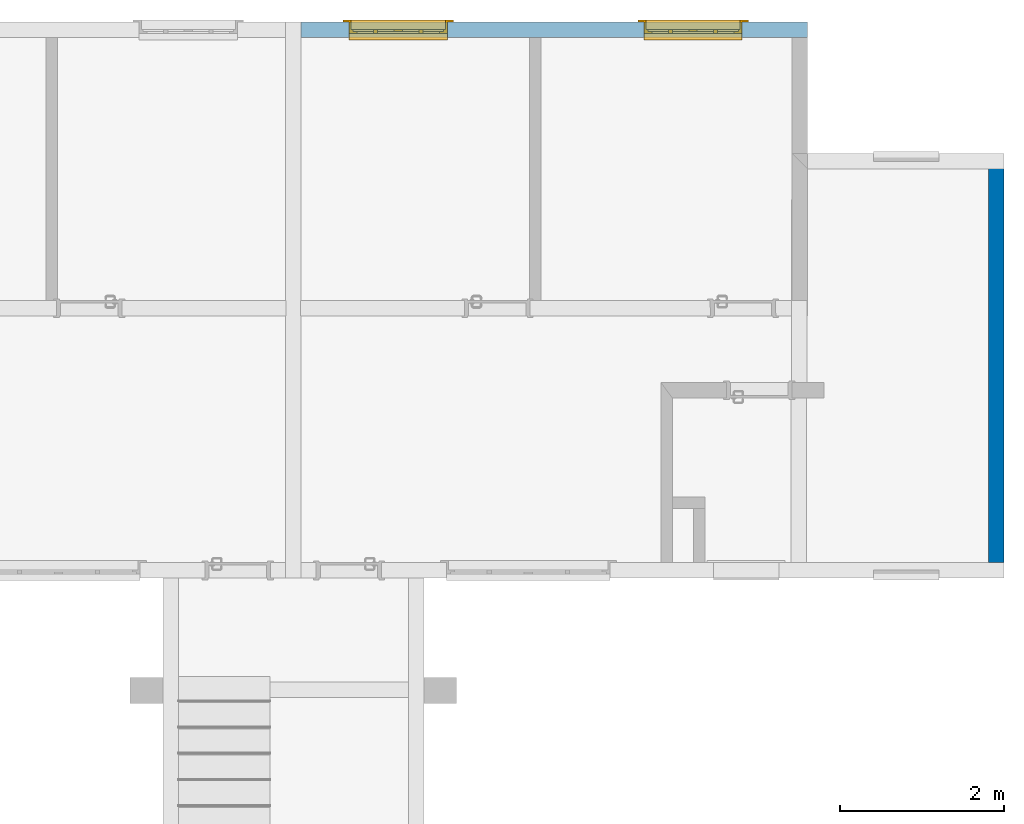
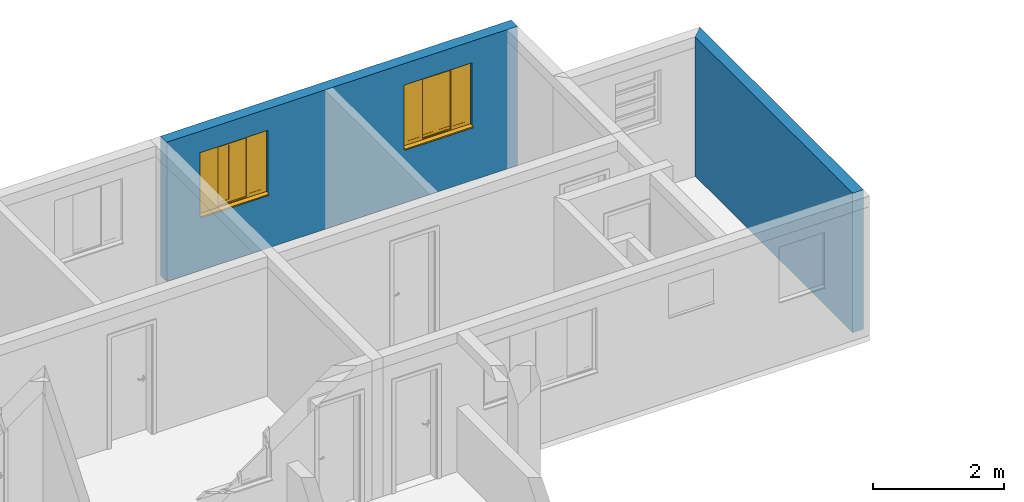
# One storey, part 41 of 43: 2 walls, 2 windows, 2 openings.
"""IFC2X3 building model written with IfcOpenShell, lengths in millimetres."""

from ifc_helpers import new_model, entity, si_unit, converted_unit, derived_unit, money_unit, direction, frame, origin_with_axes, origin_2d_with_axis, place, context, subcontext, project, spatial, polyline, rectangle, outline, extrude, open_shell, faceted_brep, surface_model, source, transform, mapped, material, layer, layer_set, layer_usage, type_object, element, fill, save


model = new_model("IFC2X3")

# Units and contexts
model_context = context("Model", 3, precision=0.01, world=origin_with_axes(), true_north=direction((0.0, 1.0)))
body_context = subcontext(model_context, "Body", "Model", "MODEL_VIEW")
ifc_project = project(units=[si_unit("LENGTHUNIT", "METRE", prefix="MILLI"), si_unit("AREAUNIT", "SQUARE_METRE"), si_unit("VOLUMEUNIT", "CUBIC_METRE"), converted_unit("PLANEANGLEUNIT", "DEGREE", entity("IfcPlaneAngleMeasure", 0.0174532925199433), si_unit("PLANEANGLEUNIT", "RADIAN"), dimensions=[0, 0, 0, 0, 0, 0, 0]), money_unit("USD"), converted_unit("TIMEUNIT", "Year", entity("IfcTimeMeasure", 31557600.0), si_unit("TIMEUNIT", "SECOND"), dimensions=[0, 0, 1, 0, 0, 0, 0]), si_unit("MASSUNIT", "GRAM", prefix="KILO"), si_unit("THERMODYNAMICTEMPERATUREUNIT", "DEGREE_CELSIUS"), si_unit("LUMINOUSINTENSITYUNIT", "LUMEN"), si_unit("ENERGYUNIT", "JOULE", prefix="MEGA"), derived_unit("THERMALCONDUCTANCEUNIT", [(si_unit("POWERUNIT", "WATT"), 1), (si_unit("LENGTHUNIT", "METRE"), -1), (si_unit("THERMODYNAMICTEMPERATUREUNIT", "KELVIN"), -1)]), derived_unit("SPECIFICHEATCAPACITYUNIT", [(si_unit("ENERGYUNIT", "JOULE"), 1), (si_unit("MASSUNIT", "GRAM", prefix="KILO"), -1), (si_unit("THERMODYNAMICTEMPERATUREUNIT", "KELVIN"), -1)]), derived_unit("MASSDENSITYUNIT", [(si_unit("MASSUNIT", "GRAM", prefix="KILO"), 1), (si_unit("VOLUMEUNIT", "CUBIC_METRE"), -1)])], contexts=[model_context])

# Site, building, storey
site_placement = place(None, origin_with_axes())
site = spatial("IfcSite", under=ifc_project, at=site_placement, Name="Local", CompositionType="ELEMENT")
building_placement = place(site_placement, origin_with_axes())
building = spatial("IfcBuilding", under=site, at=building_placement, Name="Construção", CompositionType="ELEMENT")
storey_placement = place(building_placement, origin_with_axes())
storey = spatial("IfcBuildingStorey", under=building, at=storey_placement, Name="Pavimento Tipo", CompositionType="ELEMENT", Elevation=0.0)

# Wall, openings, windows
ifc_material = material(Name="Concreto - Estrutural")
ifc_layer = layer(ifc_material, 190.0, ventilated="UNKNOWN")
ifc_layer_set = layer_set([ifc_layer], Name="Concreto - Estrutural 190")
ifc_layer_usage_1 = layer_usage(ifc_layer_set, "AXIS2", "NEGATIVE", 0.0)
wall_type = type_object("IfcWallType", Name="Concreto - Estrutural 190", PredefinedType="NOTDEFINED")
wall_1_placement = place(storey_placement, frame((70079.53415063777, 12245.36495309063, 0.0), z_axis=(0.0, 0.0, 1.0), x_axis=(-1.0, 0.0, 0.0)))
wall_1 = element("IfcWallStandardCase", 1, at=wall_1_placement, inside=storey, type_object=wall_type, material=ifc_layer_usage_1, Name="Apartamento 1 - Parede-005", context=body_context, shape_type="SweptSolid", body=[
    extrude(outline(polyline([(0.0, -189.9999999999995), (6187.334418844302, -189.9999999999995), (6187.334418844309, 0.0), (0.0, 0.0), (0.0, -189.9999999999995)])), origin_with_axes(), (0.0, 0.0, 1.0), 2600.0),
])
opening_1_placement = place(wall_1_placement, frame((4999.999999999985, 0.0, 1000.0), z_axis=(0.0, 0.0, 1.0), x_axis=(1.0, 0.0, 0.0)))
opening_1 = element("IfcOpeningElement", 2, at=opening_1_placement, cuts=wall_1, Name="Apartamento 1 - J06", context=body_context, shape_type="SweptSolid", body=[
    extrude(rectangle(XDim=1199.999999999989, YDim=1200.0, at=origin_2d_with_axis()), frame((0.0, -50.00000000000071, 600.0000000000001), z_axis=(0.0, 1.0, 0.0), x_axis=(-1.0, 0.0, 0.0)), (0.0, 0.0, -1.0), 330.0),
    extrude(rectangle(XDim=1199.999999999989, YDim=1200.0, at=origin_2d_with_axis()), frame((0.0, -50.00000000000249, 600.0000000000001), z_axis=(0.0, -1.0, 0.0), x_axis=(-1.0, 0.0, 0.0)), (0.0, 0.0, -1.0), 240.0),
    extrude(rectangle(XDim=1349.999999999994, YDim=1350.0, at=origin_2d_with_axis()), frame((0.0, -190.0000000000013, 600.0000000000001), z_axis=(0.0, 1.0, 0.0), x_axis=(-1.0, 0.0, 0.0)), (0.0, 0.0, -1.0), 240.0),
])
opening_2_placement = place(wall_1_placement, frame((1399.999999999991, 0.0, 1000.0), z_axis=(0.0, 0.0, 1.0), x_axis=(1.0, 0.0, 0.0)))
opening_2 = element("IfcOpeningElement", 3, at=opening_2_placement, cuts=wall_1, Name="Apartamento 1 - J05", context=body_context, shape_type="SweptSolid", body=[
    extrude(rectangle(XDim=1199.999999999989, YDim=1200.0, at=origin_2d_with_axis()), frame((0.0, -49.99999999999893, 600.0000000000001), z_axis=(0.0, 1.0, 0.0), x_axis=(-1.0, 0.0, 0.0)), (0.0, 0.0, -1.0), 330.0),
    extrude(rectangle(XDim=1199.999999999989, YDim=1200.0, at=origin_2d_with_axis()), frame((0.0, -50.00000000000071, 600.0000000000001), z_axis=(0.0, -1.0, 0.0), x_axis=(-1.0, 0.0, 0.0)), (0.0, 0.0, -1.0), 240.0),
    extrude(rectangle(XDim=1349.999999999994, YDim=1350.0, at=origin_2d_with_axis()), frame((0.0, -189.9999999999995, 600.0000000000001), z_axis=(0.0, 1.0, 0.0), x_axis=(-1.0, 0.0, 0.0)), (0.0, 0.0, -1.0), 240.0),
])
window_style = type_object("IfcWindowStyle", Name="Janela de Correr 4-Folhas 27", ConstructionType="NOTDEFINED", OperationType="USERDEFINED", ParameterTakesPrecedence=False, Sizeable=False)
shared_shape = source(origin_with_axes(), body_context, "Body", "SurfaceModel", [
    faceted_brep([(-600.0, -50.0, 4.999999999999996), (-600.0, -100.0, 4.999999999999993), (-600.0, -100.0, 27.37961103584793), (-600.0, -50.0, 30.0), (600.0, -50.0, 4.999999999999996), (600.0, -100.0, 4.999999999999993), (600.0, -130.0, 4.999999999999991), (-600.0, -130.0, 4.999999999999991), (-600.0, -130.0, 25.80737765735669), (600.0, -130.0, 25.80737765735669), (600.0, -100.0, 27.37961103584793), (600.0, -50.0, 30.0)], [[[0, 1, 2, 3]], [[0, 4, 5, 6, 7, 1]], [[1, 7, 8, 2]], [[3, 2, 8, 9, 10, 11]], [[4, 0, 3, 11]], [[5, 4, 11, 10]], [[6, 5, 10, 9]], [[7, 6, 9, 8]]]),
    faceted_brep([(-600.0, -50.0, 0.0), (-600.0, -100.0, 0.0), (-600.0, -100.0, 4.999999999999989), (-600.0, -50.0, 4.999999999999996), (600.0, -50.0, 0.0), (600.0, -100.0, 0.0), (600.0, -100.0, 4.999999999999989), (600.0, -50.0, 4.999999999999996)], [[[0, 1, 2, 3]], [[0, 4, 5, 1]], [[1, 5, 6, 2]], [[3, 2, 6, 7]], [[4, 0, 3, 7]], [[5, 4, 7, 6]]]),
    faceted_brep([(-600.0, 0.0, 0.0), (-600.0, 90.00000000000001, 0.0), (600.0, 90.00000000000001, 0.0), (600.0, 0.0, 0.0), (-600.0, 0.0, 1200.0), (-600.0, 90.00000000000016, 1200.0), (600.0, 90.00000000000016, 1200.0), (-575.0, 90.00000000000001, 24.99999999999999), (575.0, 90.00000000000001, 24.99999999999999), (575.0, 90.00000000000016, 1175.0), (-575.0, 90.00000000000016, 1175.0), (600.0, 0.0, 1200.0), (-575.0, 0.0, 24.99999999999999), (-575.0, 0.0, 1175.0), (575.0, 0.0, 1175.0), (575.0, 0.0, 24.99999999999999)], [[[0, 1, 2, 3]], [[4, 5, 1, 0]], [[1, 5, 6, 2], [7, 8, 9, 10]], [[3, 2, 6, 11]], [[0, 3, 11, 4], [12, 13, 14, 15]], [[11, 6, 5, 4]], [[15, 8, 7, 12]], [[14, 9, 8, 15]], [[13, 10, 9, 14]], [[12, 7, 10, 13]]]),
    faceted_brep([(-674.9999999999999, 115.0, -75.00000000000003), (-575.0, 115.0, 24.99999999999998), (-575.0, 90.00000000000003, 24.99999999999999), (-674.9999999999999, 90.00000000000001, -75.00000000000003), (-674.9999999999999, 115.0000000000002, 1275.0), (-575.0, 115.0000000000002, 1175.0), (-575.0, 90.00000000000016, 1175.0), (-674.9999999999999, 90.00000000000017, 1275.0)], [[[0, 1, 2, 3]], [[0, 4, 5, 1]], [[1, 5, 6, 2]], [[3, 2, 6, 7]], [[4, 0, 3, 7]], [[5, 4, 7, 6]]]),
    faceted_brep([(674.9999999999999, 115.0000000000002, 1275.0), (575.0, 115.0000000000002, 1175.0), (575.0, 90.00000000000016, 1175.0), (674.9999999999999, 90.00000000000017, 1275.0), (674.9999999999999, 115.0, -75.00000000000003), (575.0, 115.0, 24.99999999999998), (575.0, 90.00000000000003, 24.99999999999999), (674.9999999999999, 90.00000000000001, -75.00000000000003)], [[[0, 1, 2, 3]], [[0, 4, 5, 1]], [[1, 5, 6, 2]], [[3, 2, 6, 7]], [[4, 0, 3, 7]], [[5, 4, 7, 6]]]),
    faceted_brep([(674.9999999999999, 115.0, -75.00000000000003), (575.0, 115.0, 24.99999999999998), (575.0, 90.00000000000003, 24.99999999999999), (674.9999999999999, 90.00000000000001, -75.00000000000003), (-674.9999999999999, 115.0, -75.00000000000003), (-575.0, 115.0, 24.99999999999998), (-575.0, 90.00000000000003, 24.99999999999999), (-674.9999999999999, 90.00000000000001, -75.00000000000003)], [[[0, 1, 2, 3]], [[0, 4, 5, 1]], [[1, 5, 6, 2]], [[3, 2, 6, 7]], [[4, 0, 3, 7]], [[5, 4, 7, 6]]]),
    faceted_brep([(-674.9999999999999, 115.0000000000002, 1275.0), (-575.0, 115.0000000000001, 1175.0), (-575.0, 90.00000000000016, 1175.0), (-674.9999999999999, 90.00000000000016, 1275.0), (674.9999999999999, 115.0000000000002, 1275.0), (575.0, 115.0000000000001, 1175.0), (575.0, 90.00000000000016, 1175.0), (674.9999999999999, 90.00000000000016, 1275.0)], [[[0, 1, 2, 3]], [[0, 4, 5, 1]], [[1, 5, 6, 2]], [[3, 2, 6, 7]], [[4, 0, 3, 7]], [[5, 4, 7, 6]]]),
    faceted_brep([(-552.9999999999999, -50.00000000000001, 47.0), (-552.9999999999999, 0.0, 47.00000000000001), (-552.9999999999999, 0.0, 1153.0), (-552.9999999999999, -50.00000000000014, 1153.0), (-600.0, -50.00000000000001, 47.0), (-600.0, 0.0, 47.00000000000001), (-600.0, 0.0, 1153.0), (-600.0, -50.00000000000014, 1153.0)], [[[0, 1, 2, 3]], [[4, 5, 1, 0]], [[1, 5, 6, 2]], [[3, 2, 6, 7]], [[0, 3, 7, 4]], [[7, 6, 5, 4]]]),
    faceted_brep([(600.0, -50.00000000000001, 47.0), (600.0, 0.0, 47.00000000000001), (600.0, 0.0, 1153.0), (600.0, -50.00000000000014, 1153.0), (552.9999999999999, -50.00000000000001, 47.0), (552.9999999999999, 0.0, 47.00000000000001), (552.9999999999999, 0.0, 1153.0), (552.9999999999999, -50.00000000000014, 1153.0)], [[[0, 1, 2, 3]], [[4, 5, 1, 0]], [[1, 5, 6, 2]], [[3, 2, 6, 7]], [[0, 3, 7, 4]], [[7, 6, 5, 4]]]),
    faceted_brep([(600.0, -50.00000000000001, 47.0), (600.0, 0.0, 47.00000000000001), (552.9999999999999, 0.0, 47.00000000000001), (552.9999999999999, -50.00000000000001, 47.0), (600.0, -50.0, 0.0), (600.0, 0.0, 0.0), (-600.0, 0.0, 0.0), (-600.0, 0.0, 47.00000000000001), (-552.9999999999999, 0.0, 47.00000000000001), (-552.9999999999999, -50.00000000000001, 47.0), (-600.0, -50.00000000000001, 47.0), (-600.0, -50.0, 0.0)], [[[0, 1, 2, 3]], [[4, 5, 1, 0]], [[1, 5, 6, 7, 8, 2]], [[3, 2, 8, 9]], [[0, 3, 9, 10, 11, 4]], [[11, 6, 5, 4]], [[10, 7, 6, 11]], [[9, 8, 7, 10]]]),
    faceted_brep([(600.0, -50.00000000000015, 1200.0), (600.0, 0.0, 1200.0), (-600.0, 0.0, 1200.0), (-600.0, -50.00000000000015, 1200.0), (600.0, -50.00000000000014, 1153.0), (600.0, 0.0, 1153.0), (552.9999999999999, 0.0, 1153.0), (276.5, 0.0, 1153.0), (0.0, 0.0, 1153.0), (-276.4999999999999, 0.0, 1153.0), (-552.9999999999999, 0.0, 1153.0), (-600.0, 0.0, 1153.0), (-600.0, -50.00000000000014, 1153.0), (-552.9999999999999, -50.00000000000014, 1153.0), (-276.4999999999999, -50.00000000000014, 1153.0), (0.0, -50.00000000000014, 1153.0), (276.5, -50.00000000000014, 1153.0), (552.9999999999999, -50.00000000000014, 1153.0)], [[[0, 1, 2, 3]], [[4, 5, 1, 0]], [[1, 5, 6, 7, 8, 9, 10, 11, 2]], [[3, 2, 11, 12]], [[0, 3, 12, 13, 14, 15, 16, 17, 4]], [[17, 6, 5, 4]], [[16, 7, 6, 17]], [[15, 8, 7, 16]], [[14, 9, 8, 15]], [[13, 10, 9, 14]], [[12, 11, 10, 13]]]),
    faceted_brep([(-502.9999999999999, -50.00000000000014, 1103.0), (-502.9999999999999, -25.00000000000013, 1103.0), (-552.9999999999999, -25.00000000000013, 1103.0), (-552.9999999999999, -50.00000000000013, 1103.0), (-502.9999999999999, -50.00000000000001, 97.0), (-502.9999999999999, -25.00000000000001, 97.0), (-552.9999999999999, -25.0, 97.0), (-552.9999999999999, -50.00000000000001, 97.0)], [[[0, 1, 2, 3]], [[4, 5, 1, 0]], [[1, 5, 6, 2]], [[3, 2, 6, 7]], [[0, 3, 7, 4]], [[7, 6, 5, 4]]]),
    faceted_brep([(-301.4999999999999, -50.00000000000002, 97.0), (-301.4999999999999, -25.00000000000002, 97.0), (-251.4999999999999, -25.00000000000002, 97.0), (-251.4999999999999, -50.00000000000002, 97.0), (-301.4999999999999, -50.00000000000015, 1103.0), (-301.4999999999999, -25.00000000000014, 1103.0), (-251.4999999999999, -25.00000000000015, 1103.0), (-251.4999999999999, -50.00000000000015, 1103.0)], [[[0, 1, 2, 3]], [[4, 5, 1, 0]], [[1, 5, 6, 2]], [[3, 2, 6, 7]], [[0, 3, 7, 4]], [[7, 6, 5, 4]]]),
    faceted_brep([(-251.4999999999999, -50.00000000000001, 47.0), (-251.4999999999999, -25.00000000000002, 47.0), (-251.4999999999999, -25.00000000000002, 97.0), (-251.4999999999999, -50.00000000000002, 97.0), (-552.9999999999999, -50.0, 47.0), (-552.9999999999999, -25.0, 47.0), (-552.9999999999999, -25.0, 97.0), (-502.9999999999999, -25.00000000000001, 97.0), (-301.4999999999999, -25.00000000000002, 97.0), (-301.4999999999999, -50.00000000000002, 97.0), (-502.9999999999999, -50.00000000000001, 97.0), (-552.9999999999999, -50.00000000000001, 97.0)], [[[0, 1, 2, 3]], [[4, 5, 1, 0]], [[1, 5, 6, 7, 8, 2]], [[3, 2, 8, 9]], [[0, 3, 9, 10, 11, 4]], [[11, 6, 5, 4]], [[10, 7, 6, 11]], [[9, 8, 7, 10]]]),
    faceted_brep([(-552.9999999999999, -50.00000000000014, 1153.0), (-552.9999999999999, -25.00000000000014, 1153.0), (-552.9999999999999, -25.00000000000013, 1103.0), (-552.9999999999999, -50.00000000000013, 1103.0), (-251.4999999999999, -50.00000000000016, 1153.0), (-251.4999999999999, -25.00000000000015, 1153.0), (-251.4999999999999, -25.00000000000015, 1103.0), (-301.4999999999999, -25.00000000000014, 1103.0), (-502.9999999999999, -25.00000000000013, 1103.0), (-502.9999999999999, -50.00000000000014, 1103.0), (-301.4999999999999, -50.00000000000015, 1103.0), (-251.4999999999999, -50.00000000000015, 1103.0)], [[[0, 1, 2, 3]], [[4, 5, 1, 0]], [[1, 5, 6, 7, 8, 2]], [[3, 2, 8, 9]], [[0, 3, 9, 10, 11, 4]], [[11, 6, 5, 4]], [[10, 7, 6, 11]], [[9, 8, 7, 10]]]),
    surface_model("IfcShellBasedSurfaceModel", [(-502.9999999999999, -47.50000000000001, 97.0), (-301.4999999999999, -47.50000000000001, 97.0), (-301.4999999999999, -47.50000000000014, 1103.0), (-502.9999999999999, -47.50000000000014, 1103.0)], [open_shell([[[0, 1, 2, 3]]])]),
    surface_model("IfcShellBasedSurfaceModel", [(-502.9999999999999, -27.50000000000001, 97.0), (-502.9999999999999, -27.50000000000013, 1103.0), (-301.4999999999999, -27.50000000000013, 1103.0), (-301.4999999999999, -27.50000000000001, 97.0)], [open_shell([[[0, 1, 2, 3]]])]),
    faceted_brep([(-251.4999999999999, -25.00000000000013, 1103.0), (-251.4999999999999, 0.0, 1103.0), (-301.4999999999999, 0.0, 1103.0), (-301.4999999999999, -25.00000000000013, 1103.0), (-251.4999999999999, -25.00000000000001, 97.0), (-251.4999999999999, 0.0, 97.0), (-301.4999999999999, 0.0, 97.0), (-301.4999999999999, -25.0, 97.0)], [[[0, 1, 2, 3]], [[4, 5, 1, 0]], [[1, 5, 6, 2]], [[3, 2, 6, 7]], [[0, 3, 7, 4]], [[7, 6, 5, 4]]]),
    faceted_brep([(-49.99999999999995, -25.00000000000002, 97.0), (-49.99999999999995, 0.0, 97.0), (0.0, 0.0, 97.0), (0.0, -25.00000000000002, 97.0), (-49.99999999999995, -25.00000000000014, 1103.0), (-49.99999999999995, 0.0, 1103.0), (0.0, 0.0, 1103.0), (0.0, -25.00000000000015, 1103.0)], [[[0, 1, 2, 3]], [[4, 5, 1, 0]], [[1, 5, 6, 2]], [[3, 2, 6, 7]], [[0, 3, 7, 4]], [[7, 6, 5, 4]]]),
    faceted_brep([(0.0, -25.00000000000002, 47.0), (0.0, 0.0, 47.0), (0.0, 0.0, 97.0), (0.0, -25.00000000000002, 97.0), (-301.4999999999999, -25.0, 47.0), (-301.4999999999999, 0.0, 47.0), (-301.4999999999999, 0.0, 97.0), (-251.4999999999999, 0.0, 97.0), (-49.99999999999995, 0.0, 97.0), (-49.99999999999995, -25.00000000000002, 97.0), (-251.4999999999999, -25.00000000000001, 97.0), (-301.4999999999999, -25.0, 97.0)], [[[0, 1, 2, 3]], [[4, 5, 1, 0]], [[1, 5, 6, 7, 8, 2]], [[3, 2, 8, 9]], [[0, 3, 9, 10, 11, 4]], [[11, 6, 5, 4]], [[10, 7, 6, 11]], [[9, 8, 7, 10]]]),
    faceted_brep([(-301.4999999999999, -25.00000000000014, 1153.0), (-301.4999999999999, 0.0, 1153.0), (-301.4999999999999, 0.0, 1103.0), (-301.4999999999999, -25.00000000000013, 1103.0), (0.0, -25.00000000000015, 1153.0), (0.0, 0.0, 1153.0), (0.0, 0.0, 1103.0), (-49.99999999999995, 0.0, 1103.0), (-251.4999999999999, 0.0, 1103.0), (-251.4999999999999, -25.00000000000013, 1103.0), (-49.99999999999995, -25.00000000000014, 1103.0), (0.0, -25.00000000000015, 1103.0)], [[[0, 1, 2, 3]], [[4, 5, 1, 0]], [[1, 5, 6, 7, 8, 2]], [[3, 2, 8, 9]], [[0, 3, 9, 10, 11, 4]], [[11, 6, 5, 4]], [[10, 7, 6, 11]], [[9, 8, 7, 10]]]),
    surface_model("IfcShellBasedSurfaceModel", [(-251.4999999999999, -22.50000000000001, 97.0), (-49.99999999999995, -22.50000000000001, 97.0), (-49.99999999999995, -22.50000000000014, 1103.0), (-251.4999999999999, -22.50000000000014, 1103.0)], [open_shell([[[0, 1, 2, 3]]])]),
    surface_model("IfcShellBasedSurfaceModel", [(-251.4999999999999, -2.500000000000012, 97.0), (-251.4999999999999, -2.500000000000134, 1103.0), (-49.99999999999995, -2.500000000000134, 1103.0), (-49.99999999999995, -2.500000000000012, 97.0)], [open_shell([[[0, 1, 2, 3]]])]),
    faceted_brep([(50.00000000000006, -25.00000000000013, 1103.0), (50.00000000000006, 0.0, 1103.0), (0.0, 0.0, 1103.0), (0.0, -25.00000000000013, 1103.0), (50.00000000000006, -25.00000000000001, 97.0), (50.00000000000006, 0.0, 97.0), (0.0, 0.0, 97.0), (0.0, -25.0, 97.0)], [[[0, 1, 2, 3]], [[4, 5, 1, 0]], [[1, 5, 6, 2]], [[3, 2, 6, 7]], [[0, 3, 7, 4]], [[7, 6, 5, 4]]]),
    faceted_brep([(251.5000000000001, -25.00000000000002, 97.0), (251.5000000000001, 0.0, 97.0), (301.5000000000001, 0.0, 97.0), (301.5000000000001, -25.00000000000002, 97.0), (251.5000000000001, -25.00000000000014, 1103.0), (251.5000000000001, 0.0, 1103.0), (301.5000000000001, 0.0, 1103.0), (301.5000000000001, -25.00000000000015, 1103.0)], [[[0, 1, 2, 3]], [[4, 5, 1, 0]], [[1, 5, 6, 2]], [[3, 2, 6, 7]], [[0, 3, 7, 4]], [[7, 6, 5, 4]]]),
    faceted_brep([(301.5000000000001, -25.00000000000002, 47.0), (301.5000000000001, 0.0, 47.0), (301.5000000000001, 0.0, 97.0), (301.5000000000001, -25.00000000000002, 97.0), (0.0, -25.0, 47.0), (0.0, 0.0, 47.0), (0.0, 0.0, 97.0), (50.00000000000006, 0.0, 97.0), (251.5000000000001, 0.0, 97.0), (251.5000000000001, -25.00000000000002, 97.0), (50.00000000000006, -25.00000000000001, 97.0), (0.0, -25.0, 97.0)], [[[0, 1, 2, 3]], [[4, 5, 1, 0]], [[1, 5, 6, 7, 8, 2]], [[3, 2, 8, 9]], [[0, 3, 9, 10, 11, 4]], [[11, 6, 5, 4]], [[10, 7, 6, 11]], [[9, 8, 7, 10]]]),
    faceted_brep([(0.0, -25.00000000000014, 1153.0), (0.0, 0.0, 1153.0), (0.0, 0.0, 1103.0), (0.0, -25.00000000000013, 1103.0), (301.5000000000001, -25.00000000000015, 1153.0), (301.5000000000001, 0.0, 1153.0), (301.5000000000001, 0.0, 1103.0), (251.5000000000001, 0.0, 1103.0), (50.00000000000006, 0.0, 1103.0), (50.00000000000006, -25.00000000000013, 1103.0), (251.5000000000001, -25.00000000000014, 1103.0), (301.5000000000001, -25.00000000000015, 1103.0)], [[[0, 1, 2, 3]], [[4, 5, 1, 0]], [[1, 5, 6, 7, 8, 2]], [[3, 2, 8, 9]], [[0, 3, 9, 10, 11, 4]], [[11, 6, 5, 4]], [[10, 7, 6, 11]], [[9, 8, 7, 10]]]),
    surface_model("IfcShellBasedSurfaceModel", [(50.00000000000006, -22.50000000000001, 97.0), (251.5000000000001, -22.50000000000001, 97.0), (251.5000000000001, -22.50000000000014, 1103.0), (50.00000000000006, -22.50000000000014, 1103.0)], [open_shell([[[0, 1, 2, 3]]])]),
    surface_model("IfcShellBasedSurfaceModel", [(50.00000000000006, -2.500000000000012, 97.0), (50.00000000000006, -2.500000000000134, 1103.0), (251.5000000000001, -2.500000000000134, 1103.0), (251.5000000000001, -2.500000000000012, 97.0)], [open_shell([[[0, 1, 2, 3]]])]),
    faceted_brep([(301.5000000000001, -50.00000000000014, 1103.0), (301.5000000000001, -25.00000000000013, 1103.0), (251.5000000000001, -25.00000000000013, 1103.0), (251.5000000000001, -50.00000000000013, 1103.0), (301.5000000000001, -50.00000000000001, 97.0), (301.5000000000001, -25.00000000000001, 97.0), (251.5000000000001, -25.0, 97.0), (251.5000000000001, -50.00000000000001, 97.0)], [[[0, 1, 2, 3]], [[4, 5, 1, 0]], [[1, 5, 6, 2]], [[3, 2, 6, 7]], [[0, 3, 7, 4]], [[7, 6, 5, 4]]]),
    faceted_brep([(503.0, -50.00000000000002, 97.0), (503.0, -25.00000000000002, 97.0), (553.0, -25.00000000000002, 97.0), (553.0, -50.00000000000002, 97.0), (503.0, -50.00000000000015, 1103.0), (503.0, -25.00000000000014, 1103.0), (553.0, -25.00000000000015, 1103.0), (553.0, -50.00000000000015, 1103.0)], [[[0, 1, 2, 3]], [[4, 5, 1, 0]], [[1, 5, 6, 2]], [[3, 2, 6, 7]], [[0, 3, 7, 4]], [[7, 6, 5, 4]]]),
    faceted_brep([(553.0, -50.00000000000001, 47.0), (553.0, -25.00000000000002, 47.0), (553.0, -25.00000000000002, 97.0), (553.0, -50.00000000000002, 97.0), (251.5000000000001, -50.0, 47.0), (251.5000000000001, -25.0, 47.0), (251.5000000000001, -25.0, 97.0), (301.5000000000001, -25.00000000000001, 97.0), (503.0, -25.00000000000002, 97.0), (503.0, -50.00000000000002, 97.0), (301.5000000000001, -50.00000000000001, 97.0), (251.5000000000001, -50.00000000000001, 97.0)], [[[0, 1, 2, 3]], [[4, 5, 1, 0]], [[1, 5, 6, 7, 8, 2]], [[3, 2, 8, 9]], [[0, 3, 9, 10, 11, 4]], [[11, 6, 5, 4]], [[10, 7, 6, 11]], [[9, 8, 7, 10]]]),
    faceted_brep([(251.5000000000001, -50.00000000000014, 1153.0), (251.5000000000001, -25.00000000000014, 1153.0), (251.5000000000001, -25.00000000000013, 1103.0), (251.5000000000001, -50.00000000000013, 1103.0), (553.0, -50.00000000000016, 1153.0), (553.0, -25.00000000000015, 1153.0), (553.0, -25.00000000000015, 1103.0), (503.0, -25.00000000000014, 1103.0), (301.5000000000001, -25.00000000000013, 1103.0), (301.5000000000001, -50.00000000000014, 1103.0), (503.0, -50.00000000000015, 1103.0), (553.0, -50.00000000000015, 1103.0)], [[[0, 1, 2, 3]], [[4, 5, 1, 0]], [[1, 5, 6, 7, 8, 2]], [[3, 2, 8, 9]], [[0, 3, 9, 10, 11, 4]], [[11, 6, 5, 4]], [[10, 7, 6, 11]], [[9, 8, 7, 10]]]),
    surface_model("IfcShellBasedSurfaceModel", [(301.5, -47.50000000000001, 97.0), (503.0, -47.50000000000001, 97.0), (503.0, -47.50000000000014, 1103.0), (301.5, -47.50000000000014, 1103.0)], [open_shell([[[0, 1, 2, 3]]])]),
    surface_model("IfcShellBasedSurfaceModel", [(301.5, -27.50000000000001, 97.0), (301.5, -27.50000000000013, 1103.0), (503.0, -27.50000000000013, 1103.0), (503.0, -27.50000000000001, 97.0)], [open_shell([[[0, 1, 2, 3]]])]),
])
window_1_placement = place(opening_1_placement, frame((599.9999999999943, 0.0, 0.0), z_axis=(0.0, 0.0, 1.0), x_axis=(-1.0, 0.0, 0.0)))
window_1 = element("IfcWindow", 4, at=window_1_placement, inside=storey, type_object=window_style, Name="Apartamento 1 - J06", ObjectType="WINDOW", OverallHeight=1200.0, OverallWidth=1200.0, context=body_context, shape_type="MappedRepresentation", body=[
    mapped(shared_shape, transform((599.9999999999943, 99.99999999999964, 0.0))),
])
fill(opening_1, window_1)
window_2_placement = place(opening_2_placement, frame((599.9999999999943, 0.0, 0.0), z_axis=(0.0, 0.0, 1.0), x_axis=(-1.0, 0.0, 0.0)))
window_2 = element("IfcWindow", 5, at=window_2_placement, inside=storey, type_object=window_style, Name="Apartamento 1 - J05", ObjectType="WINDOW", OverallHeight=1200.0, OverallWidth=1200.0, context=body_context, shape_type="MappedRepresentation", body=[
    mapped(shared_shape, transform((599.9999999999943, 99.99999999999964, 0.0))),
])
fill(opening_2, window_2)

# Wall
ifc_layer_usage_2 = layer_usage(ifc_layer_set, "AXIS2", "NEGATIVE", 0.0)
wall_2_placement = place(storey_placement, frame((72286.96486497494, 5832.461520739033, 0.0), z_axis=(0.0, 0.0, 1.0), x_axis=(0.0, 1.0, 0.0)))
element("IfcWallStandardCase", 6, at=wall_2_placement, inside=storey, type_object=wall_type, material=ifc_layer_usage_2, Name="Apartamento 1 - Parede-001", context=body_context, shape_type="SweptSolid", body=[
    extrude(outline(polyline([(0.0, -189.9999999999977), (4999.996384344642, -189.9999999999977), (4809.999999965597, 0.0), (0.0, 0.0), (0.0, -189.9999999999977)])), origin_with_axes(), (0.0, 0.0, 1.0), 2600.0),
])

save(model, "model.ifc")
